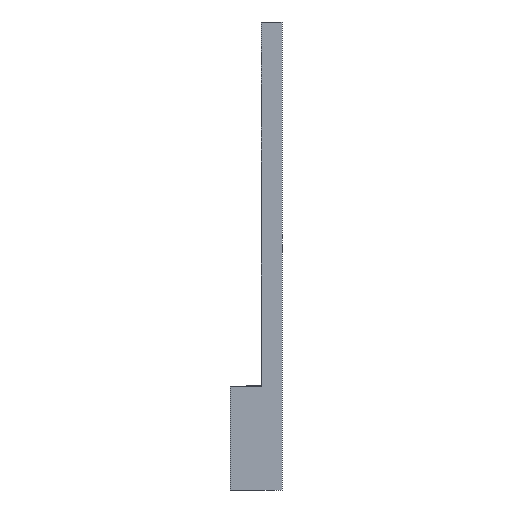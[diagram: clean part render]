
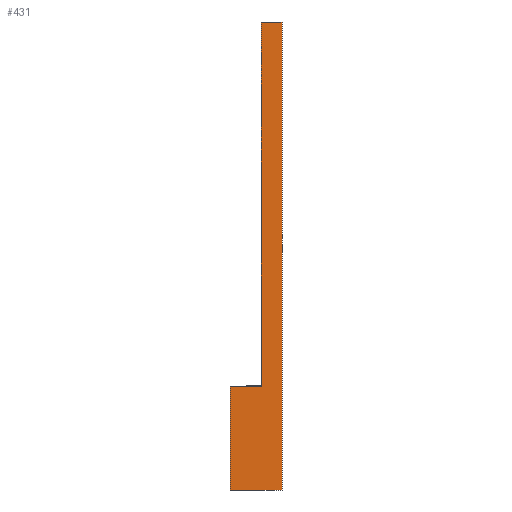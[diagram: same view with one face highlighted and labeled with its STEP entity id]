
A CAD part, front view. The second image highlights one B-rep face of the part: STEP entity #431.
In plain terms, the highlighted planar face has unit normal (0, -1, 0).
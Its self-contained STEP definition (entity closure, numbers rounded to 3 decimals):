
#47 = CARTESIAN_POINT ( 'NONE',  ( 167.3, -67.063, 6. ) ) ;
#84 = CARTESIAN_POINT ( 'NONE',  ( 168.5, -67.063, 27. ) ) ;
#159 = VERTEX_POINT ( 'NONE', #911 ) ;
#181 = CARTESIAN_POINT ( 'NONE',  ( 167.3, -67.063, 27. ) ) ;
#228 = CARTESIAN_POINT ( 'NONE',  ( 167.3, -67.063, 27. ) ) ;
#304 = VERTEX_POINT ( 'NONE', #181 ) ;
#315 = CARTESIAN_POINT ( 'NONE',  ( 165.5, -67.063, 6. ) ) ;
#318 = CARTESIAN_POINT ( 'NONE',  ( 168.5, -67.063, 0. ) ) ;
#327 = ORIENTED_EDGE ( 'NONE', *, *, #640, .F. ) ;
#342 = EDGE_CURVE ( 'NONE', #1020, #1309, #560, .T. ) ;
#343 = VECTOR ( 'NONE', #783, 1000. ) ;
#380 = LINE ( 'NONE', #1220, #432 ) ;
#387 = ORIENTED_EDGE ( 'NONE', *, *, #1136, .F. ) ;
#431 = ADVANCED_FACE ( 'NONE', ( #825 ), #1119, .F. ) ;
#432 = VECTOR ( 'NONE', #696, 1000. ) ;
#438 = DIRECTION ( 'NONE',  ( 1., 0., 0. ) ) ;
#463 = DIRECTION ( 'NONE',  ( 1., 0., 0. ) ) ;
#560 = LINE ( 'NONE', #1097, #1073 ) ;
#564 = EDGE_CURVE ( 'NONE', #159, #1309, #1181, .T. ) ;
#623 = LINE ( 'NONE', #662, #1233 ) ;
#640 = EDGE_CURVE ( 'NONE', #304, #1020, #623, .T. ) ;
#650 = VERTEX_POINT ( 'NONE', #47 ) ;
#662 = CARTESIAN_POINT ( 'NONE',  ( 168.5, -67.063, 27. ) ) ;
#696 = DIRECTION ( 'NONE',  ( 0., 0., 1. ) ) ;
#768 = EDGE_CURVE ( 'NONE', #159, #1202, #380, .T. ) ;
#774 = CARTESIAN_POINT ( 'NONE',  ( 168.5, -67.063, 27. ) ) ;
#775 = VECTOR ( 'NONE', #438, 1000. ) ;
#783 = DIRECTION ( 'NONE',  ( 1., 0., 0. ) ) ;
#825 = FACE_OUTER_BOUND ( 'NONE', #1098, .T. ) ;
#827 = DIRECTION ( 'NONE',  ( 0., 1., 0. ) ) ;
#853 = DIRECTION ( 'NONE',  ( 0., 0., -1. ) ) ;
#896 = LINE ( 'NONE', #1318, #343 ) ;
#898 = DIRECTION ( 'NONE',  ( 0., 0., -1. ) ) ;
#911 = CARTESIAN_POINT ( 'NONE',  ( 165.5, -67.063, 0. ) ) ;
#912 = EDGE_CURVE ( 'NONE', #304, #650, #992, .T. ) ;
#918 = DIRECTION ( 'NONE',  ( 0., 0., 1. ) ) ;
#927 = ORIENTED_EDGE ( 'NONE', *, *, #768, .F. ) ;
#972 = ORIENTED_EDGE ( 'NONE', *, *, #912, .T. ) ;
#987 = ORIENTED_EDGE ( 'NONE', *, *, #564, .T. ) ;
#992 = LINE ( 'NONE', #228, #1071 ) ;
#1020 = VERTEX_POINT ( 'NONE', #774 ) ;
#1064 = AXIS2_PLACEMENT_3D ( 'NONE', #84, #827, #918 ) ;
#1071 = VECTOR ( 'NONE', #853, 1000. ) ;
#1073 = VECTOR ( 'NONE', #898, 1000. ) ;
#1097 = CARTESIAN_POINT ( 'NONE',  ( 168.5, -67.063, 27. ) ) ;
#1098 = EDGE_LOOP ( 'NONE', ( #987, #1267, #327, #972, #387, #927 ) ) ;
#1119 = PLANE ( 'NONE',  #1064 ) ;
#1136 = EDGE_CURVE ( 'NONE', #1202, #650, #896, .T. ) ;
#1140 = CARTESIAN_POINT ( 'NONE',  ( 168.5, -67.063, 0. ) ) ;
#1181 = LINE ( 'NONE', #318, #775 ) ;
#1202 = VERTEX_POINT ( 'NONE', #315 ) ;
#1220 = CARTESIAN_POINT ( 'NONE',  ( 165.5, -67.063, 0. ) ) ;
#1233 = VECTOR ( 'NONE', #463, 1000. ) ;
#1267 = ORIENTED_EDGE ( 'NONE', *, *, #342, .F. ) ;
#1309 = VERTEX_POINT ( 'NONE', #1140 ) ;
#1318 = CARTESIAN_POINT ( 'NONE',  ( 165.5, -67.063, 6. ) ) ;
